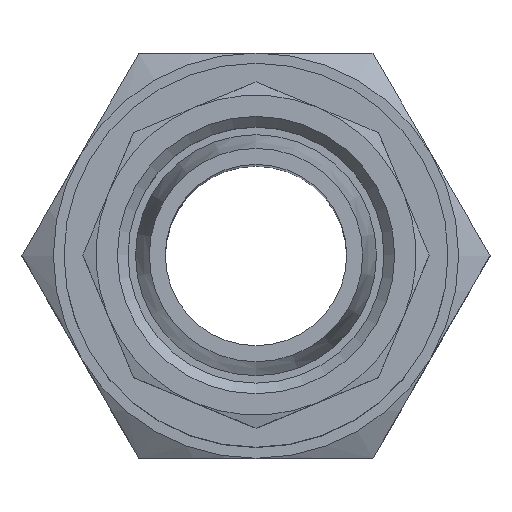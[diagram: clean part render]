
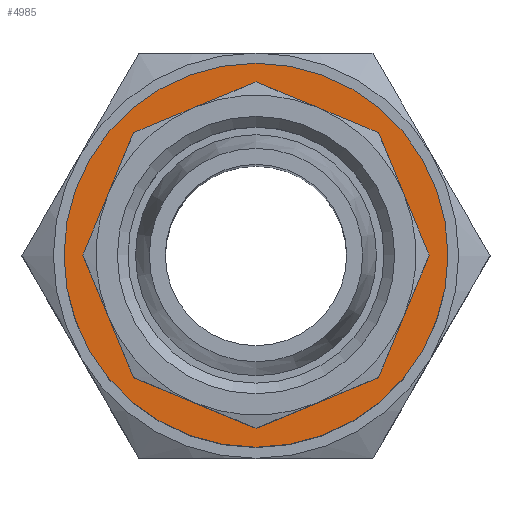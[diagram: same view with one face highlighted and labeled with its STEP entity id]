
A CAD part, top view. The second image highlights one B-rep face of the part: STEP entity #4985.
In plain terms, the highlighted planar face has unit normal (0, 0, 1) as drawn and (0, 1, 0) by its records, which use the part's own axes.
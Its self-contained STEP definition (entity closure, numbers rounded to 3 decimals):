
#11=VECTOR('',#3641,1.);
#14=VECTOR('',#3652,1.);
#16=VECTOR('',#3662,1.);
#18=VECTOR('',#3672,1.);
#20=VECTOR('',#3682,1.);
#22=VECTOR('',#3692,1.);
#24=VECTOR('',#3702,1.);
#25=VECTOR('',#3709,1.);
#55=LINE('',#4236,#11);
#58=LINE('',#4245,#14);
#60=LINE('',#4253,#16);
#62=LINE('',#4261,#18);
#64=LINE('',#4269,#20);
#66=LINE('',#4277,#22);
#68=LINE('',#4285,#24);
#69=LINE('',#4289,#25);
#2485=ORIENTED_EDGE('',*,*,#3067,.T.);
#2486=ORIENTED_EDGE('',*,*,#3056,.F.);
#2487=ORIENTED_EDGE('',*,*,#3060,.F.);
#2488=ORIENTED_EDGE('',*,*,#3064,.F.);
#2489=ORIENTED_EDGE('',*,*,#3066,.F.);
#2490=ORIENTED_EDGE('',*,*,#3039,.F.);
#2491=ORIENTED_EDGE('',*,*,#3044,.F.);
#2492=ORIENTED_EDGE('',*,*,#3048,.F.);
#2493=ORIENTED_EDGE('',*,*,#3052,.F.);
#2815=CIRCLE('',#4701,9.);
#2899=VERTEX_POINT('',#4233);
#2900=VERTEX_POINT('',#4235);
#2902=VERTEX_POINT('',#4243);
#2904=VERTEX_POINT('',#4251);
#2906=VERTEX_POINT('',#4259);
#2908=VERTEX_POINT('',#4267);
#2910=VERTEX_POINT('',#4275);
#2912=VERTEX_POINT('',#4283);
#2913=VERTEX_POINT('',#4291);
#3039=EDGE_CURVE('',#2899,#2900,#55,.T.);
#3044=EDGE_CURVE('',#2902,#2899,#58,.T.);
#3048=EDGE_CURVE('',#2904,#2902,#60,.T.);
#3052=EDGE_CURVE('',#2906,#2904,#62,.T.);
#3056=EDGE_CURVE('',#2908,#2906,#64,.T.);
#3060=EDGE_CURVE('',#2910,#2908,#66,.T.);
#3064=EDGE_CURVE('',#2912,#2910,#68,.T.);
#3066=EDGE_CURVE('',#2900,#2912,#69,.T.);
#3067=EDGE_CURVE('',#2913,#2913,#2815,.T.);
#3268=EDGE_LOOP('',(#2485));
#3269=EDGE_LOOP('',(#2486,#2487,#2488,#2489,#2490,#2491,#2492,#2493));
#3428=FACE_BOUND('',#3268,.T.);
#3429=FACE_BOUND('',#3269,.T.);
#3641=DIRECTION('',(-5.74,0.,2.378));
#3652=DIRECTION('',(-5.74,0.,-2.378));
#3662=DIRECTION('',(-2.378,0.,-5.74));
#3672=DIRECTION('',(2.378,0.,-5.74));
#3682=DIRECTION('',(5.74,0.,-2.378));
#3692=DIRECTION('',(5.74,0.,2.378));
#3702=DIRECTION('',(2.378,0.,5.74));
#3709=DIRECTION('',(-2.378,0.,5.74));
#3710=DIRECTION('',(0.,1.,0.));
#3711=DIRECTION('',(1.,0.,0.));
#3712=DIRECTION('',(0.,1.,0.));
#3713=DIRECTION('',(0.,0.,-9.));
#4233=CARTESIAN_POINT('',(26.989,25.395,-8.118));
#4235=CARTESIAN_POINT('',(21.249,25.395,-5.74));
#4236=CARTESIAN_POINT('',(26.989,25.395,-8.118));
#4243=CARTESIAN_POINT('',(32.729,25.395,-5.74));
#4245=CARTESIAN_POINT('',(32.729,25.395,-5.74));
#4251=CARTESIAN_POINT('',(35.107,25.395,0.));
#4253=CARTESIAN_POINT('',(35.107,25.395,0.));
#4259=CARTESIAN_POINT('',(32.729,25.395,5.74));
#4261=CARTESIAN_POINT('',(32.729,25.395,5.74));
#4267=CARTESIAN_POINT('',(26.989,25.395,8.118));
#4269=CARTESIAN_POINT('',(26.989,25.395,8.118));
#4275=CARTESIAN_POINT('',(21.249,25.395,5.74));
#4277=CARTESIAN_POINT('',(21.249,25.395,5.74));
#4283=CARTESIAN_POINT('',(18.871,25.395,0.));
#4285=CARTESIAN_POINT('',(18.871,25.395,0.));
#4289=CARTESIAN_POINT('',(21.249,25.395,-5.74));
#4290=CARTESIAN_POINT('',(26.989,25.395,-9.));
#4291=CARTESIAN_POINT('',(26.989,25.395,-9.));
#4292=CARTESIAN_POINT('',(26.989,25.395,0.));
#4700=AXIS2_PLACEMENT_3D('',#4290,#3710,#3711);
#4701=AXIS2_PLACEMENT_3D('',#4292,#3712,#3713);
#4921=PLANE('',#4700);
#4985=ADVANCED_FACE('',(#3428,#3429),#4921,.T.);
